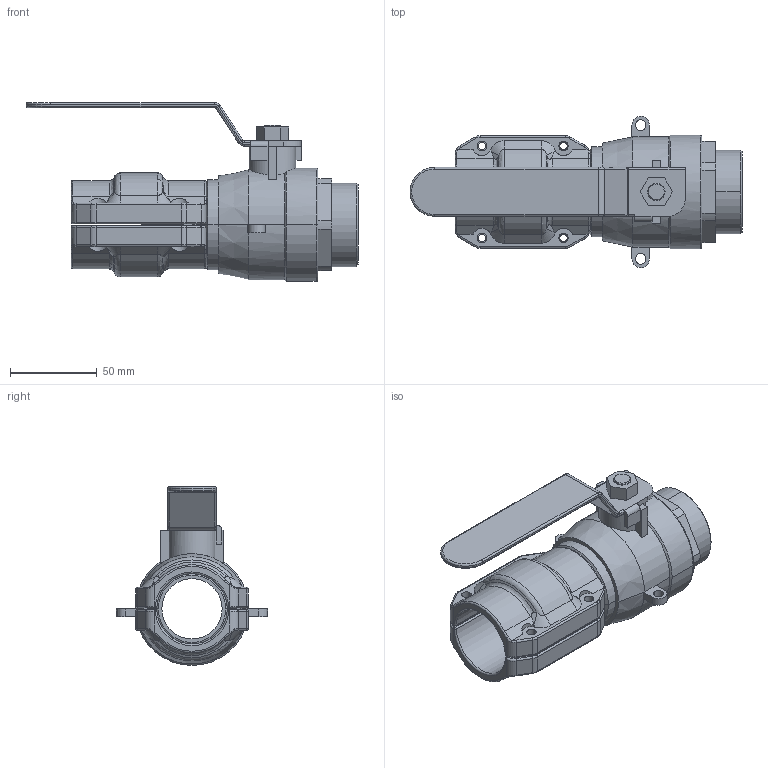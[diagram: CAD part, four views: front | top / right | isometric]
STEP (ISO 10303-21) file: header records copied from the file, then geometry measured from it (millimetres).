
FILE_DESCRIPTION((''),'2;1');
FILE_NAME('AU15435199_ASM','2017-05-13T',('li'),(''),'PRO/ENGINEER BY PARAMETRIC TECHNOLOGY CORPORATION, 2009360','PRO/ENGINEER BY PARAMETRIC TECHNOLOGY CORPORATION, 2009360','');
FILE_SCHEMA(('AUTOMOTIVE_DESIGN { 1 0 10303 214 1 1 1 1 }'));
Length unit declared in the file: millimetre
Products named in the file (5): AU15435100; 201540020001; 201540020000; 2015400200_ASM; AU15435199_ASM
Assembly tree (4 placements, depth 3):
  AU15435199_ASM
    AU15435100
    2015400200_ASM
      201540020001
      201540020000
Bounding box: 191.42 x 87.15 x 103.16 mm (x, y, z)
Volume: 199271.5 mm3; surface area: 88312.7 mm2
Topology: 3 solids, 3 shells, 361 faces, 909 edges, 562 vertices
Faces by surface type: cylinder 151, plane 93, torus 62, bspline 24, cone 23, sphere 8
Entity records: 15137 total; most frequent: CARTESIAN_POINT 3356, DIRECTION 1879, ORIENTED_EDGE 1818, PRESENTATION_STYLE_ASSIGNMENT 912, STYLED_ITEM 912, CURVE_STYLE 909, EDGE_CURVE 909, AXIS2_PLACEMENT_3D 751
